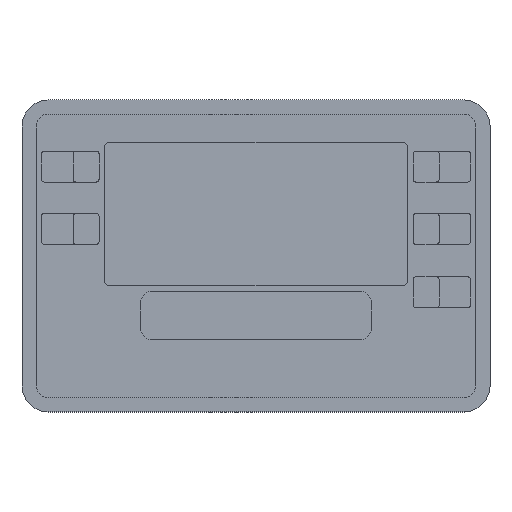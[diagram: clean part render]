
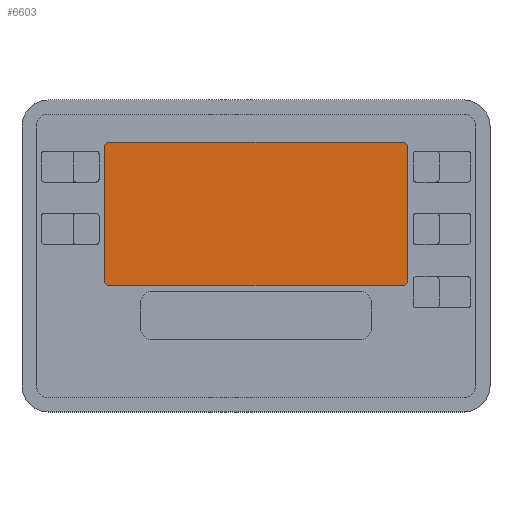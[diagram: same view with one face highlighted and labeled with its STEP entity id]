
A CAD part, top view. The second image highlights one B-rep face of the part: STEP entity #6603.
In plain terms, the highlighted planar face has unit normal (0, 0, 1).
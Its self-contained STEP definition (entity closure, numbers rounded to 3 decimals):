
#378=LINE('',#12374,#1127);
#381=LINE('',#12382,#1130);
#384=LINE('',#12390,#1133);
#386=LINE('',#12396,#1135);
#1127=VECTOR('',#10337,1000.);
#1130=VECTOR('',#10346,1000.);
#1133=VECTOR('',#10355,1000.);
#1135=VECTOR('',#10363,1000.);
#2188=ORIENTED_EDGE('',*,*,#3899,.T.);
#2189=ORIENTED_EDGE('',*,*,#3902,.T.);
#2190=ORIENTED_EDGE('',*,*,#3904,.T.);
#2191=ORIENTED_EDGE('',*,*,#3906,.T.);
#2192=ORIENTED_EDGE('',*,*,#3908,.T.);
#2193=ORIENTED_EDGE('',*,*,#3910,.T.);
#2194=ORIENTED_EDGE('',*,*,#3912,.T.);
#2195=ORIENTED_EDGE('',*,*,#3913,.T.);
#3899=EDGE_CURVE('',#4798,#4797,#5274,.T.);
#3902=EDGE_CURVE('',#4797,#4799,#378,.T.);
#3904=EDGE_CURVE('',#4799,#4800,#5275,.T.);
#3906=EDGE_CURVE('',#4800,#4801,#381,.T.);
#3908=EDGE_CURVE('',#4801,#4802,#5276,.T.);
#3910=EDGE_CURVE('',#4802,#4803,#384,.T.);
#3912=EDGE_CURVE('',#4803,#4804,#5277,.T.);
#3913=EDGE_CURVE('',#4804,#4798,#386,.T.);
#4797=VERTEX_POINT('',#12367);
#4798=VERTEX_POINT('',#12369);
#4799=VERTEX_POINT('',#12373);
#4800=VERTEX_POINT('',#12377);
#4801=VERTEX_POINT('',#12381);
#4802=VERTEX_POINT('',#12385);
#4803=VERTEX_POINT('',#12389);
#4804=VERTEX_POINT('',#12393);
#5274=CIRCLE('',#9326,2.);
#5275=CIRCLE('',#9329,2.);
#5276=CIRCLE('',#9332,2.);
#5277=CIRCLE('',#9335,2.);
#5506=EDGE_LOOP('',(#2188,#2189,#2190,#2191,#2192,#2193,#2194,#2195));
#5935=FACE_BOUND('',#5506,.T.);
#6305=PLANE('',#9337);
#6603=ADVANCED_FACE('',(#5935),#6305,.T.);
#9326=AXIS2_PLACEMENT_3D('',#12368,#10331,#10332);
#9329=AXIS2_PLACEMENT_3D('',#12378,#10341,#10342);
#9332=AXIS2_PLACEMENT_3D('',#12386,#10350,#10351);
#9335=AXIS2_PLACEMENT_3D('',#12394,#10359,#10360);
#9337=AXIS2_PLACEMENT_3D('',#12397,#10364,#10365);
#10331=DIRECTION('',(0.,0.,1.));
#10332=DIRECTION('',(1.,0.,0.));
#10337=DIRECTION('',(0.,-1.,0.));
#10341=DIRECTION('',(0.,0.,1.));
#10342=DIRECTION('',(1.,0.,0.));
#10346=DIRECTION('',(1.,0.,0.));
#10350=DIRECTION('',(0.,0.,1.));
#10351=DIRECTION('',(1.,0.,0.));
#10355=DIRECTION('',(0.,1.,0.));
#10359=DIRECTION('',(0.,0.,1.));
#10360=DIRECTION('',(1.,0.,0.));
#10363=DIRECTION('',(-1.,0.,0.));
#10364=DIRECTION('',(0.,0.,1.));
#10365=DIRECTION('',(1.,0.,0.));
#12367=CARTESIAN_POINT('',(-58.287,41.752,1.8));
#12368=CARTESIAN_POINT('',(-56.287,41.752,1.8));
#12369=CARTESIAN_POINT('',(-56.287,43.752,1.8));
#12373=CARTESIAN_POINT('',(-58.287,-9.438,1.8));
#12374=CARTESIAN_POINT('',(-58.287,41.752,1.8));
#12377=CARTESIAN_POINT('',(-56.287,-11.438,1.8));
#12378=CARTESIAN_POINT('',(-56.287,-9.438,1.8));
#12381=CARTESIAN_POINT('',(56.287,-11.438,1.8));
#12382=CARTESIAN_POINT('',(-56.287,-11.438,1.8));
#12385=CARTESIAN_POINT('',(58.287,-9.438,1.8));
#12386=CARTESIAN_POINT('',(56.287,-9.438,1.8));
#12389=CARTESIAN_POINT('',(58.287,41.752,1.8));
#12390=CARTESIAN_POINT('',(58.287,-9.438,1.8));
#12393=CARTESIAN_POINT('',(56.287,43.752,1.8));
#12394=CARTESIAN_POINT('',(56.287,41.752,1.8));
#12396=CARTESIAN_POINT('',(56.287,43.752,1.8));
#12397=CARTESIAN_POINT('',(-56.287,41.752,1.8));
